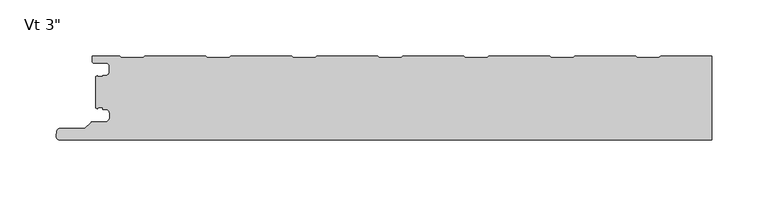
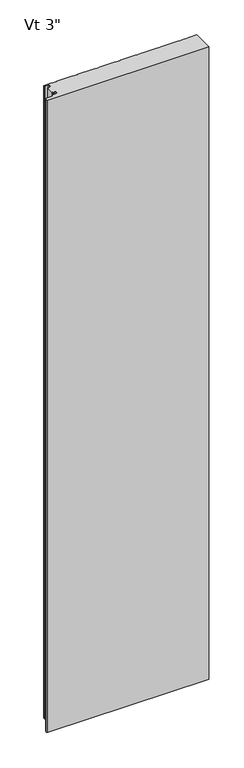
"""IFC4 building model written with IfcOpenShell, lengths in millimetres: plate geometry."""

import ifcopenshell
import ifcopenshell.guid

model = None  # the IFC model being written
_history = None  # IfcOwnerHistory: only IFC2X3 demands one
_inside = {}  # id of a spatial element -> (the spatial element, [elements in it])
_under = {}  # id of a project, library or spatial element -> (it, [spatial elements below it])
_declared = {}  # id of a project -> (the project, [libraries it declares])
_typed = {}  # id of a type object -> (the type object, [elements of that type])
_made_of = {}  # id of a material, layer set ... -> (it, [elements and type objects made of it])


def new_model(schema):
    """Start an empty IFC model of exactly this schema.

    Asked for "IFC4X3", IfcOpenShell would pick the latest addendum, in which some entities
    have other attributes; the version numbers below select the first issue.
    IFC2X3 requires an IfcOwnerHistory on every rooted entity: one is made here for all.
    """
    global model, _history
    if schema == "IFC4X3":
        model = ifcopenshell.file(schema_version=(4, 3, 0, 0))
    else:
        model = ifcopenshell.file(schema=schema)
    _inside.clear()
    _under.clear()
    _declared.clear()
    _typed.clear()
    _made_of.clear()
    _history = None
    if model.schema == "IFC2X3":
        org = make("IfcOrganization", Name="unknown")
        user = make(
            "IfcPersonAndOrganization",
            ThePerson=make("IfcPerson", FamilyName="unknown"),
            TheOrganization=org,
        )
        app = make(
            "IfcApplication",
            ApplicationDeveloper=org,
            Version="unknown",
            ApplicationFullName="unknown",
            ApplicationIdentifier="unknown",
        )
        _history = make(
            "IfcOwnerHistory",
            OwningUser=user,
            OwningApplication=app,
            ChangeAction="ADDED",
            CreationDate=0,
        )
    return model


def make(cls, **values):
    """One entity of the class cls with the attributes given. An attribute that is None is left unset."""
    return model.create_entity(
        cls, **{name: value for name, value in values.items() if value is not None}
    )


def rooted(cls, **values):
    """An entity with a GlobalId (a new one), such as an element, a storey or a relation."""
    return make(cls, GlobalId=ifcopenshell.guid.new(), OwnerHistory=_history, **values)


def si_unit(unit_type, name, prefix=None):
    """IfcSIUnit, for example si_unit("LENGTHUNIT", "METRE", prefix="MILLI")."""
    return make("IfcSIUnit", UnitType=unit_type, Prefix=prefix, Name=name)


def assignment(units):
    """IfcUnitAssignment: the units of a project."""
    return None if units is None else make("IfcUnitAssignment", Units=units)


def point(xyz):
    """IfcCartesianPoint."""
    return None if xyz is None else make("IfcCartesianPoint", Coordinates=xyz)


def direction(xyz):
    """IfcDirection."""
    return None if xyz is None else make("IfcDirection", DirectionRatios=xyz)


def frame(location, z_axis=None, x_axis=None):
    """IfcAxis2Placement3D, a coordinate frame: its origin and axes. An axis left out is left unset."""
    return make(
        "IfcAxis2Placement3D",
        Location=point(location),
        Axis=direction(z_axis),
        RefDirection=direction(x_axis),
    )


def origin():
    """The frame at (0, 0, 0) with its axes left unset."""
    return frame((0.0, 0.0, 0.0))


def place(relative_to, where):
    """IfcLocalPlacement: puts the frame where relative to a parent placement (None: the world)."""
    return make(
        "IfcLocalPlacement", PlacementRelTo=relative_to, RelativePlacement=where
    )


def context(
    kind, dimensions, precision=None, world=None, true_north=None, identifier=None
):
    """IfcGeometricRepresentationContext, for example the 3D "Model" context."""
    return make(
        "IfcGeometricRepresentationContext",
        ContextIdentifier=identifier,
        ContextType=kind,
        CoordinateSpaceDimension=dimensions,
        Precision=precision,
        WorldCoordinateSystem=world,
        TrueNorth=true_north,
    )


def project(units=None, contexts=None):
    """IfcProject with its units and contexts."""
    return rooted(
        "IfcProject",
        Name="project",
        RepresentationContexts=contexts,
        UnitsInContext=assignment(units),
    )


def spatial(cls, under=None, at=None, **own):
    """A site, building, storey or space (cls), placed at a placement, below another one or the project."""
    s = rooted(cls, ObjectPlacement=at, **own)
    if under is not None:
        _under.setdefault(under.id(), (under, []))[1].append(s)
    return s


def polyline(points):
    """IfcPolyline through the points."""
    return make("IfcPolyline", Points=[point(p) for p in points])


def circle_curve(where, radius):
    """IfcCircle in the frame where."""
    return make("IfcCircle", Position=where, Radius=radius)


def shape(context_of_items, identifier, shape_type, items):
    """IfcShapeRepresentation: the items that make up one representation, for example the "Body"."""
    return make(
        "IfcShapeRepresentation",
        ContextOfItems=context_of_items,
        RepresentationIdentifier=identifier,
        RepresentationType=shape_type,
        Items=items,
    )


def source(mapping_origin, context_of_items, identifier, shape_type, items):
    """IfcRepresentationMap: a shape defined once, which mapped items show again and again."""
    return make(
        "IfcRepresentationMap",
        MappingOrigin=mapping_origin,
        MappedRepresentation=shape(context_of_items, identifier, shape_type, items),
    )


def transform(
    local_origin,
    x_axis=None,
    y_axis=None,
    z_axis=None,
    scale=None,
    scale2=None,
    scale3=None,
    uniform=True,
):
    """IfcCartesianTransformationOperator3D, or its non-uniform kind. x_axis, y_axis, z_axis: its Axis1, 2, 3."""
    if uniform:
        return make(
            "IfcCartesianTransformationOperator3D",
            Axis1=direction(x_axis),
            Axis2=direction(y_axis),
            LocalOrigin=point(local_origin),
            Scale=scale,
            Axis3=direction(z_axis),
        )
    return make(
        "IfcCartesianTransformationOperator3DnonUniform",
        Axis1=direction(x_axis),
        Axis2=direction(y_axis),
        LocalOrigin=point(local_origin),
        Scale=scale,
        Axis3=direction(z_axis),
        Scale2=scale2,
        Scale3=scale3,
    )


def mapped(mapping_source, mapping_target):
    """IfcMappedItem: shows the shape of a source again, moved by a transform."""
    return make(
        "IfcMappedItem", MappingSource=mapping_source, MappingTarget=mapping_target
    )


def made_of(thing, what):
    """Note that an element or type object is made of a material, layer set ...; save() writes the relation."""
    if what is not None:
        _made_of.setdefault(what.id(), (what, []))[1].append(thing)
    return thing


def element(
    cls,
    number,
    at=None,
    inside=None,
    cuts=None,
    type_object=None,
    material=None,
    context=None,
    identifier="Body",
    shape_type=None,
    held_by="IfcProductDefinitionShape",
    body=None,
    shapes=None,
    **own,
):
    """One element of the class cls, such as IfcWall. Its Tag is "e" and its number.

    at: its placement. inside: the storey or other place that contains it. cuts: it is an
    opening in that element (IfcRelVoidsElement). A single representation is given by context,
    identifier, shape_type and body (its items); several are given by shapes. held_by: the class
    of the entity that holds the representations. save() writes the other relations.
    """
    e = rooted(cls, Tag="e%d" % number, ObjectPlacement=at, **own)
    if body is not None:
        shapes = [shape(context, identifier, shape_type, body)]
    if shapes is not None:
        e.Representation = make(held_by, Representations=shapes)
    if inside is not None:
        _inside.setdefault(inside.id(), (inside, []))[1].append(e)
    if cuts is not None:
        rooted(
            "IfcRelVoidsElement", RelatingBuildingElement=cuts, RelatedOpeningElement=e
        )
    if type_object is not None:
        _typed.setdefault(type_object.id(), (type_object, []))[1].append(e)
    return made_of(e, material)


def aggregate(whole, parts):
    """IfcRelAggregates: a whole, such as a stair, and the parts it consists of."""
    return rooted("IfcRelAggregates", RelatingObject=whole, RelatedObjects=parts)


def save(model, path):
    """Write the relations noted so far, then the file.

    IfcRelAggregates (storeys below a building ...), IfcRelContainedInSpatialStructure (elements
    in a storey), IfcRelDefinesByType, IfcRelAssociatesMaterial and IfcRelDeclares: one each for
    every whole, place, type object, material and project.
    """
    for whole, parts in _under.values():
        aggregate(whole, parts)
    for where, things in _inside.values():
        rooted(
            "IfcRelContainedInSpatialStructure",
            RelatedElements=things,
            RelatingStructure=where,
        )
    for kind, things in _typed.values():
        rooted("IfcRelDefinesByType", RelatedObjects=things, RelatingType=kind)
    for what, things in _made_of.values():
        rooted("IfcRelAssociatesMaterial", RelatedObjects=things, RelatingMaterial=what)
    for by, libraries in _declared.values():
        rooted("IfcRelDeclares", RelatingContext=by, RelatedDefinitions=libraries)
    model.write(path)


def plane_surface(at):
    """IfcPlane: the flat surface through the origin of the frame at, square to its z axis."""
    return make("IfcPlane", Position=at)


def cylinder_surface(at, radius):
    """IfcCylindricalSurface: all points at the distance radius from the z axis of the frame at."""
    return make("IfcCylindricalSurface", Position=at, Radius=radius)


def revolved_surface(curve, axis_point, axis_direction):
    """IfcSurfaceOfRevolution: the curve turned about the line through axis_point along axis_direction."""
    return make(
        "IfcSurfaceOfRevolution",
        SweptCurve=make("IfcArbitraryOpenProfileDef", ProfileType="CURVE", Curve=curve),
        AxisPosition=make("IfcAxis1Placement", Location=point(axis_point), Axis=direction(axis_direction)),
    )


def advanced_brep(points, edges, surfaces, faces):
    """IfcAdvancedBrep: a solid bounded by faces that lie on surfaces and meet in shared edges.

    An edge is (start, end): straight between two places in points (the first is 0);
    or (start, end, curve); or (start, end, curve, False) where it runs against its curve.
    A face is (place in surfaces, loops), or (place, loops, False) where it looks against
    its surface's normal. A loop lists edges by number (the first is 1), with a minus sign
    where the edge is run from its end to its start. The first loop is the outer one.
    """
    corners = [point(p) for p in points]
    vertices = [make("IfcVertexPoint", VertexGeometry=c) for c in corners]
    made = []
    for start, end, *more in edges:
        made.append(
            make(
                "IfcEdgeCurve",
                EdgeStart=vertices[start],
                EdgeEnd=vertices[end],
                EdgeGeometry=more[0] if more else make("IfcPolyline", Points=[corners[start], corners[end]]),
                SameSense=more[1] if len(more) > 1 else True,
            )
        )
    hull = []
    for where, loops, *sense in faces:
        bounds = []
        for j, loop in enumerate(loops):
            ring = [make("IfcOrientedEdge", EdgeElement=made[abs(k) - 1], Orientation=k > 0) for k in loop]
            bounds.append(
                make(
                    "IfcFaceOuterBound" if j == 0 else "IfcFaceBound",
                    Bound=make("IfcEdgeLoop", EdgeList=ring),
                    Orientation=True,
                )
            )
        hull.append(make("IfcAdvancedFace", Bounds=bounds, FaceSurface=surfaces[where], SameSense=sense[0] if sense else True))
    return make("IfcAdvancedBrep", Outer=make("IfcClosedShell", CfsFaces=hull))


def plate_fea9afa7(model_context):
    return source(origin(), model_context, "Body", "AdvancedBrep", [
        advanced_brep(
        [(-271.7683, -47.870875, 2400.0), (-270.567176, -46.7014003, 2400.0), (-266.8087826, -46.7014003, 2400.0), (-266.8087826, -48.0998791, 2400.0), (-264.1096715, -48.0998791, 2400.0), (-260.7596762, -51.4498744, 2400.0), (-260.7596762, -55.8498656, 2400.0), (-264.1096715, -59.1998609, 2400.0), (-275.9205606, -59.1998609, 2400.0), (-277.1226383, -59.6977778, 2400.0), (-282.6247094, -65.1998489, 2400.0), (-304.7198391, -65.1998489, 2400.0), (-307.3765707, -67.4184509, 2400.0), (-307.8125697, -72.4002718, 2400.0), (-305.2521175, -75.1945967, 2400.0), (272.7999998, -75.2, 2400.0), (272.7999998, -1.0, 2400.0), (227.5795537, -1.0, 2400.0), (226.1939207, -2.2002307, 2400.0), (206.8187544, -2.2002307, 2400.0), (205.4331215, -1.0, 2400.0), (151.3797061, -1.0, 2400.0), (149.9940731, -2.2002307, 2400.0), (130.6189068, -2.2002307, 2400.0), (129.2332739, -1.0, 2400.0), (75.1798585, -1.0, 2400.0), (73.7942255, -2.2002307, 2400.0), (54.4190592, -2.2002307, 2400.0), (53.0334263, -1.0, 2400.0), (-1.0199891, -1.0, 2400.0), (-2.4056221, -2.2002307, 2400.0), (-21.7807884, -2.2002307, 2400.0), (-23.1664213, -1.0, 2400.0), (-77.2198367, -1.0, 2400.0), (-78.6054697, -2.2002307, 2400.0), (-97.980636, -2.2002307, 2400.0), (-99.3662689, -1.0, 2400.0), (-153.4196843, -1.0, 2400.0), (-154.8053173, -2.2002307, 2400.0), (-174.1804836, -2.2002307, 2400.0), (-175.5661165, -1.0, 2400.0), (-229.6195319, -1.0, 2400.0), (-231.0051649, -2.2002307, 2400.0), (-250.3803312, -2.2002307, 2400.0), (-251.7659738, -0.9999916, 2400.0), (-276.2662504, -0.9999916, 2400.0), (-276.2662504, -5.2315389, 2400.0), (-274.4962562, -7.0015331, 2400.0), (-264.0762777, -7.0015331, 2400.0), (-260.7762818, -10.301529, 2400.0), (-260.7762818, -14.7015202, 2400.0), (-264.0762775, -18.0015159, 2400.0), (-266.7684873, -18.0015159, 2400.0), (-266.7684873, -19.0015105, 2400.0), (-270.768691, -19.0015105, 2400.0), (-271.7686882, -18.0015192, 2400.0), (-272.7999998, -19.0328308, 2400.0), (-272.7999998, -46.8391751, 2400.0), (-271.7683, -47.870875, 0.0), (-272.7999998, -46.8391751, 0.0), (-272.7999998, -19.0328308, 0.0), (-271.7686882, -18.0015192, 0.0), (-270.768691, -19.0015105, 0.0), (-266.7684873, -19.0015105, 0.0), (-266.7684873, -18.0015159, 0.0), (-264.0762775, -18.0015159, 0.0), (-260.7762818, -14.7015202, 0.0), (-260.7762818, -10.301529, 0.0), (-264.0762777, -7.0015331, 0.0), (-274.4962562, -7.0015331, 0.0), (-276.2662504, -5.2315389, 0.0), (-276.2662504, -0.9999916, 0.0), (-251.7659738, -0.9999916, 0.0), (-250.3803312, -2.2002307, 0.0), (-231.0051649, -2.2002307, 0.0), (-229.6195319, -1.0, 0.0), (-175.5661165, -1.0, 0.0), (-174.1804836, -2.2002307, 0.0), (-154.8053173, -2.2002307, 0.0), (-153.4196843, -1.0, 0.0), (-99.3662689, -1.0, 0.0), (-97.980636, -2.2002307, 0.0), (-78.6054697, -2.2002307, 0.0), (-77.2198367, -1.0, 0.0), (-23.1664213, -1.0, 0.0), (-21.7807884, -2.2002307, 0.0), (-2.4056221, -2.2002307, 0.0), (-1.0199891, -1.0, 0.0), (53.0334263, -1.0, 0.0), (54.4190592, -2.2002307, 0.0), (73.7942255, -2.2002307, 0.0), (75.1798585, -1.0, 0.0), (129.2332739, -1.0, 0.0), (130.6189068, -2.2002307, 0.0), (149.9940731, -2.2002307, 0.0), (151.3797061, -1.0, 0.0), (205.4331215, -1.0, 0.0), (206.8187544, -2.2002307, 0.0), (226.1939207, -2.2002307, 0.0), (227.5795537, -1.0, 0.0), (272.7999998, -1.0, 0.0), (272.7999998, -75.2, 0.0), (-305.2521175, -75.2, 0.0), (-307.8125697, -72.4002718, 0.0), (-307.3765707, -67.4184509, 0.0), (-304.7198391, -65.1998489, 0.0), (-282.6247094, -65.1998489, 0.0), (-277.1226383, -59.6977778, 0.0), (-275.9205606, -59.1998609, 0.0), (-264.1096715, -59.1998609, 0.0), (-260.7596762, -55.8498656, 0.0), (-260.7596762, -51.4498744, 0.0), (-264.1096715, -48.0998791, 0.0), (-266.8087826, -48.0998791, 0.0), (-266.8087826, -46.7014003, 0.0), (-270.567176, -46.7014003, 0.0)],
        [
            (0, 1, circle_curve(frame((-270.5686906, -47.9013969, 2400.0), z_axis=(0.0, 0.0, -1.0), x_axis=(-1.0, 0.0, 0.0)), 1.1999976)),
            (1, 2),
            (2, 3),
            (3, 4),
            (4, 5, circle_curve(frame((-264.1096715, -51.4498744, 2400.0), z_axis=(0.0, 0.0, -1.0), x_axis=(-1.0, 0.0, 0.0)), 3.3499953)),
            (5, 6),
            (6, 7, circle_curve(frame((-264.1096715, -55.8498656, 2400.0), z_axis=(0.0, 0.0, -1.0), x_axis=(-1.0, 0.0, 0.0)), 3.3499953)),
            (7, 8),
            (8, 9, circle_curve(frame((-275.9205606, -60.8998555, 2400.0), z_axis=(0.0, 0.0, 1.0), x_axis=(-1.0, 0.0, 0.0)), 1.6999946)),
            (9, 10),
            (10, 11),
            (11, 12, circle_curve(frame((-304.7198391, -67.8998415, 2400.0), z_axis=(0.0, 0.0, 1.0), x_axis=(-1.0, 0.0, 0.0)), 2.6999926)),
            (12, 13),
            (13, 14, circle_curve(frame((-305.2521175, -72.6243575, 2400.0), z_axis=(0.0, 0.0, 1.0), x_axis=(-1.0, 0.0, 0.0)), 2.5702393)),
            (14, 15),
            (15, 16),
            (16, 17),
            (17, 18),
            (18, 19),
            (19, 20),
            (20, 21),
            (21, 22),
            (22, 23),
            (23, 24),
            (24, 25),
            (25, 26),
            (26, 27),
            (27, 28),
            (28, 29),
            (29, 30),
            (30, 31),
            (31, 32),
            (32, 33),
            (33, 34),
            (34, 35),
            (35, 36),
            (36, 37),
            (37, 38),
            (38, 39),
            (39, 40),
            (40, 41),
            (41, 42),
            (42, 43),
            (43, 44),
            (44, 45),
            (45, 46),
            (46, 47, circle_curve(frame((-274.4962562, -5.2315389, 2400.0), z_axis=(0.0, 0.0, 1.0), x_axis=(1.0, 0.0, 0.0)), 1.7699942)),
            (47, 48),
            (48, 49, circle_curve(frame((-264.0762777, -10.301529, 2400.0), z_axis=(0.0, 0.0, -1.0), x_axis=(1.0, 0.0, 0.0)), 3.2999959)),
            (49, 50),
            (50, 51, circle_curve(frame((-264.0762775, -14.7015202, 2400.0), z_axis=(0.0, 0.0, -1.0), x_axis=(1.0, 0.0, 0.0)), 3.2999957)),
            (51, 52),
            (52, 53),
            (53, 54),
            (54, 55, circle_curve(frame((-270.768691, -18.0015133, 2400.0), z_axis=(0.0, 0.0, -1.0), x_axis=(1.0, 0.0, 0.0)), 0.9999972)),
            (55, 56),
            (56, 57),
            (57, 0),
            (58, 59),
            (59, 60),
            (60, 61),
            (61, 62, circle_curve(frame((-270.768691, -18.0015133, 0.0), z_axis=(0.0, 0.0, 1.0), x_axis=(1.0, 0.0, 0.0)), 0.9999972)),
            (62, 63),
            (63, 64),
            (64, 65),
            (65, 66, circle_curve(frame((-264.0762775, -14.7015202, 0.0), z_axis=(0.0, 0.0, 1.0), x_axis=(1.0, 0.0, 0.0)), 3.2999957)),
            (66, 67),
            (67, 68, circle_curve(frame((-264.0762777, -10.301529, 0.0), z_axis=(0.0, 0.0, 1.0), x_axis=(1.0, 0.0, 0.0)), 3.2999959)),
            (68, 69),
            (69, 70, circle_curve(frame((-274.4962562, -5.2315389, 0.0), z_axis=(0.0, 0.0, -1.0), x_axis=(1.0, 0.0, 0.0)), 1.7699942)),
            (70, 71),
            (71, 72),
            (72, 73),
            (73, 74),
            (74, 75),
            (75, 76),
            (76, 77),
            (77, 78),
            (78, 79),
            (79, 80),
            (80, 81),
            (81, 82),
            (82, 83),
            (83, 84),
            (84, 85),
            (85, 86),
            (86, 87),
            (87, 88),
            (88, 89),
            (89, 90),
            (90, 91),
            (91, 92),
            (92, 93),
            (93, 94),
            (94, 95),
            (95, 96),
            (96, 97),
            (97, 98),
            (98, 99),
            (99, 100),
            (100, 101),
            (101, 102),
            (102, 103, circle_curve(frame((-305.2521175, -72.6243575, 0.0), z_axis=(0.0, 0.0, -1.0), x_axis=(-1.0, 0.0, 0.0)), 2.5702393)),
            (103, 104),
            (104, 105, circle_curve(frame((-304.7198391, -67.8998415, 0.0), z_axis=(0.0, 0.0, -1.0), x_axis=(-1.0, 0.0, 0.0)), 2.6999926)),
            (105, 106),
            (106, 107),
            (107, 108, circle_curve(frame((-275.9205606, -60.8998555, 0.0), z_axis=(0.0, 0.0, -1.0), x_axis=(-1.0, 0.0, 0.0)), 1.6999946)),
            (108, 109),
            (109, 110, circle_curve(frame((-264.1096715, -55.8498656, 0.0), z_axis=(0.0, 0.0, 1.0), x_axis=(-1.0, 0.0, 0.0)), 3.3499953)),
            (110, 111),
            (111, 112, circle_curve(frame((-264.1096715, -51.4498744, 0.0), z_axis=(0.0, 0.0, 1.0), x_axis=(-1.0, 0.0, 0.0)), 3.3499953)),
            (112, 113),
            (113, 114),
            (114, 115),
            (115, 58, circle_curve(frame((-270.5686906, -47.9013969, 0.0), z_axis=(0.0, 0.0, 1.0), x_axis=(-1.0, 0.0, 0.0)), 1.1999976)),
            (57, 59),
            (58, 0),
            (56, 60),
            (101, 15),
            (14, 102),
            (13, 103),
            (12, 104),
            (11, 105),
            (10, 106),
            (9, 107),
            (8, 108),
            (7, 109),
            (6, 110),
            (5, 111),
            (4, 112),
            (3, 113),
            (2, 114),
            (1, 115),
            (55, 61),
            (54, 62),
            (53, 63),
            (52, 64),
            (51, 65),
            (50, 66),
            (49, 67),
            (48, 68),
            (47, 69),
            (46, 70),
            (45, 71),
            (44, 72),
            (100, 16),
            (43, 73),
            (42, 74),
            (41, 75),
            (40, 76),
            (39, 77),
            (38, 78),
            (37, 79),
            (36, 80),
            (35, 81),
            (34, 82),
            (33, 83),
            (32, 84),
            (31, 85),
            (30, 86),
            (29, 87),
            (28, 88),
            (27, 89),
            (26, 90),
            (25, 91),
            (24, 92),
            (23, 93),
            (22, 94),
            (21, 95),
            (20, 96),
            (19, 97),
            (18, 98),
            (17, 99),
        ],
        [
            plane_surface(frame((184.4000002, -75.2, 2400.0), z_axis=(0.0, 0.0, 1.0), x_axis=(0.0, -1.0, 0.0))),
            plane_surface(frame((184.4000002, -75.2, 0.0), z_axis=(0.0, 0.0, -1.0), x_axis=(0.0, -1.0, 0.0))),
            plane_surface(frame((-271.7683, -47.870875, 2400.0), z_axis=(-0.707106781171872, -0.7071067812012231, 0.0), x_axis=(0.0, 0.0, -1.0))),
            plane_surface(frame((-272.7999998, -46.8391751, 2400.0), z_axis=(-1.0, 0.0, 0.0), x_axis=(0.0, 0.0, -1.0))),
            plane_surface(frame((593.1156221, -75.2, 2400.0), z_axis=(0.0, -1.0, 0.0), x_axis=(0.0, 0.0, -1.0))),
            cylinder_surface(frame((-305.2521175, -72.6243575, 2400.0), z_axis=(0.0, 0.0, 1.0), x_axis=(-1.0, 0.0, 0.0)), 2.5702393),
            plane_surface(frame((-307.8125697, -72.4002718, 2400.0), z_axis=(-0.9961921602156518, 0.08718474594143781, 0.0), x_axis=(0.0, 0.0, -1.0))),
            cylinder_surface(frame((-304.7198391, -67.8998415, 2400.0), z_axis=(0.0, 0.0, 1.0), x_axis=(-1.0, 0.0, 0.0)), 2.6999926),
            plane_surface(frame((-304.7198391, -65.1998489, 2400.0), z_axis=(0.0, 1.0, 0.0), x_axis=(0.0, 0.0, -1.0))),
            plane_surface(frame((-282.6247094, -65.1998489, 2400.0), z_axis=(-0.707106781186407, 0.7071067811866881, 0.0), x_axis=(0.0, 0.0, -1.0))),
            cylinder_surface(frame((-275.9205606, -60.8998555, 2400.0), z_axis=(0.0, 0.0, 1.0), x_axis=(-1.0, 0.0, 0.0)), 1.6999946),
            plane_surface(frame((-275.9205606, -59.1998609, 2400.0), z_axis=(0.0, 1.0, 0.0), x_axis=(0.0, 0.0, -1.0))),
            revolved_surface(polyline([(-267.4596668, -55.8498656, 0.0), (-267.4596668, -55.8498656, 2400.0)]), (-264.1096715, -55.8498656, 2400.0), (0.0, 0.0, -1.0)),
            plane_surface(frame((-260.7596762, -55.8498656, 2400.0), z_axis=(-1.0, 0.0, 0.0), x_axis=(0.0, 0.0, -1.0))),
            revolved_surface(polyline([(-267.4596668, -51.4498744, 0.0), (-267.4596668, -51.4498744, 2400.0)]), (-264.1096715, -51.4498744, 2400.0), (0.0, 0.0, -1.0)),
            plane_surface(frame((-264.1096715, -48.0998791, 2400.0), z_axis=(0.0, -1.0, 0.0), x_axis=(0.0, 0.0, -1.0))),
            plane_surface(frame((-266.8087826, -48.0998791, 2400.0), z_axis=(-1.0, 0.0, 0.0), x_axis=(0.0, 0.0, -1.0))),
            plane_surface(frame((-266.8087826, -46.7014003, 2400.0), z_axis=(0.0, -1.0, 0.0), x_axis=(0.0, 0.0, -1.0))),
            revolved_surface(polyline([(-271.76868820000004, -47.9013969, 0.0), (-271.76868820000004, -47.9013969, 2400.0)]), (-270.5686906, -47.9013969, 2400.0), (0.0, 0.0, -1.0)),
            plane_surface(frame((-272.7999998, -19.0328308, 2400.0), z_axis=(-0.7071067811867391, 0.707106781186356, 0.0), x_axis=(0.0, 0.0, -1.0))),
            revolved_surface(polyline([(-269.7686938, -18.0015133, 0.0), (-269.7686938, -18.0015133, 2400.0)]), (-270.768691, -18.0015133, 2400.0), (0.0, 0.0, -1.0)),
            plane_surface(frame((-270.768691, -19.0015105, 2400.0), z_axis=(0.0, 1.0, 0.0), x_axis=(0.0, 0.0, -1.0))),
            plane_surface(frame((-266.7684873, -19.0015105, 2400.0), z_axis=(-1.0, 0.0, 0.0), x_axis=(0.0, 0.0, -1.0))),
            plane_surface(frame((-266.7684873, -18.0015159, 2400.0), z_axis=(0.0, 1.0, 0.0), x_axis=(0.0, 0.0, -1.0))),
            revolved_surface(polyline([(-260.7762818, -14.7015202, 0.0), (-260.7762818, -14.7015202, 2400.0)]), (-264.0762775, -14.7015202, 2400.0), (0.0, 0.0, -1.0)),
            plane_surface(frame((-260.7762818, -14.7015202, 2400.0), z_axis=(-1.0, 0.0, 0.0), x_axis=(0.0, 0.0, -1.0))),
            revolved_surface(polyline([(-260.7762818, -10.301529, 0.0), (-260.7762818, -10.301529, 2400.0)]), (-264.0762777, -10.301529, 2400.0), (0.0, 0.0, -1.0)),
            plane_surface(frame((-264.0762777, -7.0015331, 2400.0), z_axis=(0.0, -1.0, 0.0), x_axis=(0.0, 0.0, -1.0))),
            cylinder_surface(frame((-274.4962562, -5.2315389, 2400.0), z_axis=(0.0, 0.0, 1.0), x_axis=(1.0, 0.0, 0.0)), 1.7699942),
            plane_surface(frame((-276.2662504, -5.2315389, 2400.0), z_axis=(-1.0, 0.0, 0.0), x_axis=(0.0, 0.0, -1.0))),
            plane_surface(frame((-276.2662504, -0.9999916, 2400.0), z_axis=(0.0, 1.0, 0.0), x_axis=(0.0, 0.0, -1.0))),
            plane_surface(frame((272.7999998, -86.2, 2400.0), z_axis=(1.0, 0.0, 0.0), x_axis=(0.0, 0.0, -1.0))),
            plane_surface(frame((-251.7659738, -0.9999916, 2400.0), z_axis=(0.6547276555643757, 0.7558648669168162, 0.0), x_axis=(0.0, 0.0, -1.0))),
            plane_surface(frame((-250.3803312, -2.2002307, 2400.0), z_axis=(0.0, 1.0, 0.0), x_axis=(0.0, 0.0, -1.0))),
            plane_surface(frame((-231.0051649, -2.2002307, 2400.0), z_axis=(-0.6547276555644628, 0.7558648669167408, 0.0), x_axis=(0.0, 0.0, -1.0))),
            plane_surface(frame((-229.6195319, -1.0, 2400.0), z_axis=(0.0, 1.0, 0.0), x_axis=(0.0, 0.0, -1.0))),
            plane_surface(frame((-175.5661165, -1.0, 2400.0), z_axis=(0.6547276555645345, 0.7558648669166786, 0.0), x_axis=(0.0, 0.0, -1.0))),
            plane_surface(frame((-174.1804836, -2.2002307, 2400.0), z_axis=(0.0, 1.0, 0.0), x_axis=(0.0, 0.0, -1.0))),
            plane_surface(frame((-154.8053173, -2.2002307, 2400.0), z_axis=(-0.654727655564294, 0.755864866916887, 0.0), x_axis=(0.0, 0.0, -1.0))),
            plane_surface(frame((-153.4196843, -1.0, 2400.0), z_axis=(0.0, 1.0, 0.0), x_axis=(0.0, 0.0, -1.0))),
            plane_surface(frame((-99.3662689, -1.0, 2400.0), z_axis=(0.6547276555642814, 0.7558648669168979, 0.0), x_axis=(0.0, 0.0, -1.0))),
            plane_surface(frame((-97.980636, -2.2002307, 2400.0), z_axis=(0.0, 1.0, 0.0), x_axis=(0.0, 0.0, -1.0))),
            plane_surface(frame((-78.6054697, -2.2002307, 2400.0), z_axis=(-0.6547276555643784, 0.7558648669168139, 0.0), x_axis=(0.0, 0.0, -1.0))),
            plane_surface(frame((-77.2198367, -1.0, 2400.0), z_axis=(0.0, 1.0, 0.0), x_axis=(0.0, 0.0, -1.0))),
            plane_surface(frame((-23.1664213, -1.0, 2400.0), z_axis=(0.6547276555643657, 0.7558648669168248, 0.0), x_axis=(0.0, 0.0, -1.0))),
            plane_surface(frame((-21.7807884, -2.2002307, 2400.0), z_axis=(0.0, 1.0, 0.0), x_axis=(0.0, 0.0, -1.0))),
            plane_surface(frame((-2.4056221, -2.2002307, 2400.0), z_axis=(-0.6547276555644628, 0.7558648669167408, 0.0), x_axis=(0.0, 0.0, -1.0))),
            plane_surface(frame((-1.0199891, -1.0, 2400.0), z_axis=(0.0, 1.0, 0.0), x_axis=(0.0, 0.0, -1.0))),
            plane_surface(frame((53.0334263, -1.0, 2400.0), z_axis=(0.6547276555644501, 0.7558648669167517, 0.0), x_axis=(0.0, 0.0, -1.0))),
            plane_surface(frame((54.4190592, -2.2002307, 2400.0), z_axis=(0.0, 1.0, 0.0), x_axis=(0.0, 0.0, -1.0))),
            plane_surface(frame((73.7942255, -2.2002307, 2400.0), z_axis=(-0.6547276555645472, 0.7558648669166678, 0.0), x_axis=(0.0, 0.0, -1.0))),
            plane_surface(frame((75.1798585, -1.0, 2400.0), z_axis=(0.0, 1.0, 0.0), x_axis=(0.0, 0.0, -1.0))),
            plane_surface(frame((129.2332739, -1.0, 2400.0), z_axis=(0.6547276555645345, 0.7558648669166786, 0.0), x_axis=(0.0, 0.0, -1.0))),
            plane_surface(frame((130.6189068, -2.2002307, 2400.0), z_axis=(0.0, 1.0, 0.0), x_axis=(0.0, 0.0, -1.0))),
            plane_surface(frame((149.9940731, -2.2002307, 2400.0), z_axis=(-0.6547276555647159, 0.7558648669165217, 0.0), x_axis=(0.0, 0.0, -1.0))),
            plane_surface(frame((151.3797061, -1.0, 2400.0), z_axis=(0.0, 1.0, 0.0), x_axis=(0.0, 0.0, -1.0))),
            plane_surface(frame((205.4331215, -1.0, 2400.0), z_axis=(0.6547276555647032, 0.7558648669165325, 0.0), x_axis=(0.0, 0.0, -1.0))),
            plane_surface(frame((206.8187544, -2.2002307, 2400.0), z_axis=(0.0, 1.0, 0.0), x_axis=(0.0, 0.0, -1.0))),
            plane_surface(frame((226.1939207, -2.2002307, 2400.0), z_axis=(-0.6547276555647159, 0.7558648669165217, 0.0), x_axis=(0.0, 0.0, -1.0))),
            plane_surface(frame((227.5795537, -1.0, 2400.0), z_axis=(0.0, 1.0, 0.0), x_axis=(0.0, 0.0, -1.0))),
        ],
        [
            (0, [[1, 2, 3, 4, 5, 6, 7, 8, 9, 10, 11, 12, 13, 14, 15, 16, 17, 18, 19, 20, 21, 22, 23, 24, 25, 26, 27, 28, 29, 30, 31, 32, 33, 34, 35, 36, 37, 38, 39, 40, 41, 42, 43, 44, 45, 46, 47, 48, 49, 50, 51, 52, 53, 54, 55, 56, 57, 58]]),
            (1, [[59, 60, 61, 62, 63, 64, 65, 66, 67, 68, 69, 70, 71, 72, 73, 74, 75, 76, 77, 78, 79, 80, 81, 82, 83, 84, 85, 86, 87, 88, 89, 90, 91, 92, 93, 94, 95, 96, 97, 98, 99, 100, 101, 102, 103, 104, 105, 106, 107, 108, 109, 110, 111, 112, 113, 114, 115, 116]]),
            (2, [[117, -59, 118, -58]]),
            (3, [[-57, 119, -60, -117]]),
            (4, [[-102, 120, -15, 121]]),
            (5, [[122, -103, -121, -14]]),
            (6, [[123, -104, -122, -13]]),
            (7, [[124, -105, -123, -12]]),
            (8, [[125, -106, -124, -11]]),
            (9, [[126, -107, -125, -10]]),
            (10, [[127, -108, -126, -9]]),
            (11, [[128, -109, -127, -8]]),
            (12, [[129, -110, -128, -7]]),
            (13, [[130, -111, -129, -6]]),
            (14, [[131, -112, -130, -5]]),
            (15, [[132, -113, -131, -4]]),
            (16, [[133, -114, -132, -3]]),
            (17, [[134, -115, -133, -2]]),
            (18, [[-118, -116, -134, -1]]),
            (19, [[135, -61, -119, -56]]),
            (20, [[136, -62, -135, -55]]),
            (21, [[137, -63, -136, -54]]),
            (22, [[138, -64, -137, -53]]),
            (23, [[139, -65, -138, -52]]),
            (24, [[140, -66, -139, -51]]),
            (25, [[141, -67, -140, -50]]),
            (26, [[142, -68, -141, -49]]),
            (27, [[143, -69, -142, -48]]),
            (28, [[144, -70, -143, -47]]),
            (29, [[145, -71, -144, -46]]),
            (30, [[146, -72, -145, -45]]),
            (31, [[-120, -101, 147, -16]]),
            (32, [[148, -73, -146, -44]]),
            (33, [[149, -74, -148, -43]]),
            (34, [[150, -75, -149, -42]]),
            (35, [[151, -76, -150, -41]]),
            (36, [[152, -77, -151, -40]]),
            (37, [[153, -78, -152, -39]]),
            (38, [[154, -79, -153, -38]]),
            (39, [[155, -80, -154, -37]]),
            (40, [[156, -81, -155, -36]]),
            (41, [[157, -82, -156, -35]]),
            (42, [[158, -83, -157, -34]]),
            (43, [[159, -84, -158, -33]]),
            (44, [[160, -85, -159, -32]]),
            (45, [[161, -86, -160, -31]]),
            (46, [[162, -87, -161, -30]]),
            (47, [[163, -88, -162, -29]]),
            (48, [[164, -89, -163, -28]]),
            (49, [[165, -90, -164, -27]]),
            (50, [[166, -91, -165, -26]]),
            (51, [[167, -92, -166, -25]]),
            (52, [[168, -93, -167, -24]]),
            (53, [[169, -94, -168, -23]]),
            (54, [[170, -95, -169, -22]]),
            (55, [[171, -96, -170, -21]]),
            (56, [[172, -97, -171, -20]]),
            (57, [[173, -98, -172, -19]]),
            (58, [[174, -99, -173, -18]]),
            (59, [[-17, -147, -100, -174]]),
        ],
    ),
    ])


if __name__ == "__main__":
    model = new_model("IFC4")
    model_context = context("Model", 3, world=origin())
    ifc_project = project(units=[si_unit("LENGTHUNIT", "METRE", prefix="MILLI")], contexts=[model_context])
    site = spatial("IfcSite", under=ifc_project)
    building = spatial("IfcBuilding", under=site)
    placement = place(None, origin())
    plate_shape = plate_fea9afa7(model_context)
    element("IfcPlate", 1, ObjectType="KIP-36-Karrier-KP-R19-CP-Vt-FL3-8in_SL : Vt 3\"", at=placement, inside=building, context=model_context, shape_type="MappedRepresentation", body=[
        mapped(plate_shape, transform((0.0, 0.0, 0.0), x_axis=(1.0, 0.0, 0.0), y_axis=(0.0, 1.0, 0.0), z_axis=(0.0, 0.0, 1.0))),
    ])
    save(model, "model.ifc")
